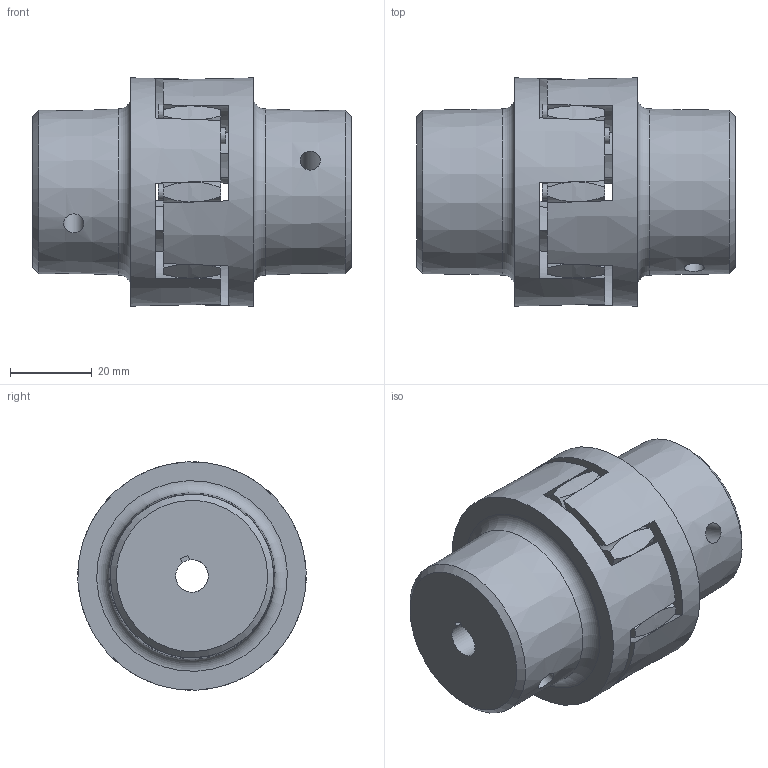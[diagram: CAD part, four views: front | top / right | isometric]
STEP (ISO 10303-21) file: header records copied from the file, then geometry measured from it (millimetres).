
FILE_DESCRIPTION(/* description */ (''),/* implementation_level */ '2;1');
FILE_NAME(/* name */ 'RP24-8-PF-8-PF',/* time_stamp */ '2024-01-05T15:29:24+01:00',/* author */ ('M. Horlacher'),/* organization */ (''),/* preprocessor_version */ 'ST-DEVELOPER v20',/* originating_system */ 'Autodesk Inventor 2024',/* authorisation */ '');
FILE_SCHEMA (('AUTOMOTIVE_DESIGN { 1 0 10303 214 3 1 1 }'));
Length unit declared in the file: millimetre
Products named in the file (4): RP STEP; RP24 Stern 92Shore; RP24-Nabe_1; RP24-Nabe_1_1
Assembly tree (3 placements, depth 2):
  RP STEP
    RP24 Stern 92Shore
    RP24-Nabe_1
    RP24-Nabe_1_1
Bounding box: 78 x 55.95 x 55.95 mm (x, y, z)
Volume: 112501 mm3; surface area: 31649.9 mm2
Topology: 3 solids, 3 shells, 107 faces, 277 edges, 186 vertices
Faces by surface type: bspline 32, plane 30, cone 30, cylinder 13, torus 2
Full cylindrical faces by diameter (mm): 4 x8, 5 x2, 27 x1
Entity records: 4712 total; most frequent: CARTESIAN_POINT 2031, ORIENTED_EDGE 554, DIRECTION 505, EDGE_CURVE 277, AXIS2_PLACEMENT_3D 234, VERTEX_POINT 186, CIRCLE 136, EDGE_LOOP 127
